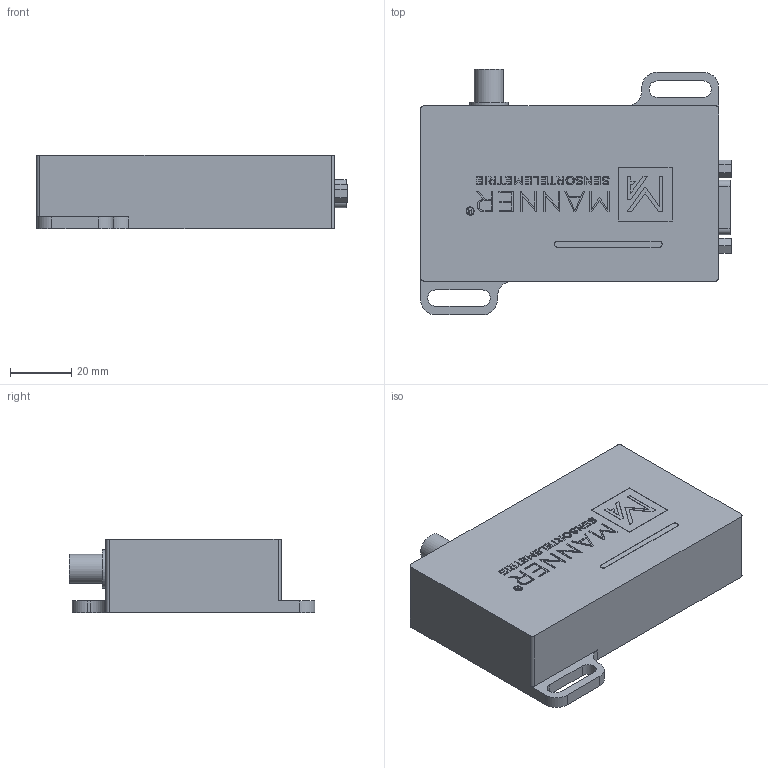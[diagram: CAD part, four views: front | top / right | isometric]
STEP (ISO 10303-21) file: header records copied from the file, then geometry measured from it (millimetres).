
FILE_DESCRIPTION(/* description */ ('AW Mn AS'),/* implementation_level */ '2;1');
FILE_NAME(/* name */ 'G:\Bibliotheken\CAD_Daten_MERP\500026\500026_AW_Mn_AS_vertrieb_2025-09-18-081900.stp',/* time_stamp */ '2025-09-18T08:19:01+02:00',/* author */ (''),/* organization */ (''),/* preprocessor_version */ 'ST-DEVELOPER v18.1',/* originating_system */ 'Autodesk Inventor 2021',/* authorisation */ '');
FILE_SCHEMA (('AUTOMOTIVE_DESIGN { 1 0 10303 214 3 1 1 }'));
Length unit declared in the file: millimetre
Products named in the file (1): 500026
Bounding box: 101.15 x 80 x 24 mm (x, y, z)
Volume: 134214.5 mm3; surface area: 21251.2 mm2
Topology: 1 solids, 1 shells, 439 faces, 1141 edges, 760 vertices
Faces by surface type: plane 341, bspline 49, cylinder 47, cone 2
Full cylindrical faces by diameter (mm): 0.61 x9, 2 x3, 2.156 x2, 8.3 x1, 9.5 x1, 12.5 x1
Entity records: 13585 total; most frequent: CARTESIAN_POINT 2922, ORIENTED_EDGE 2278, DIRECTION 1915, EDGE_CURVE 1139, LINE 945, VECTOR 945, VERTEX_POINT 760, EDGE_LOOP 501
